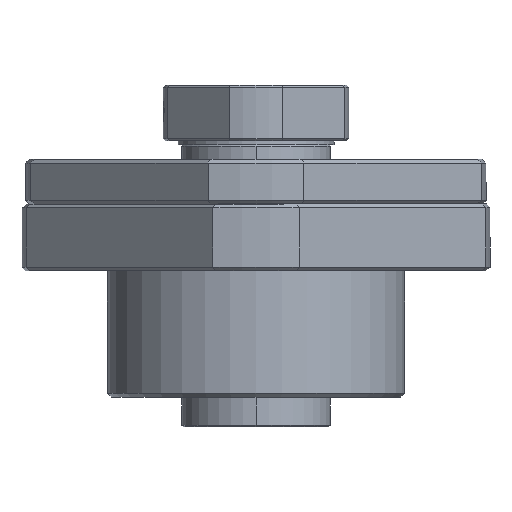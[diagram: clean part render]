
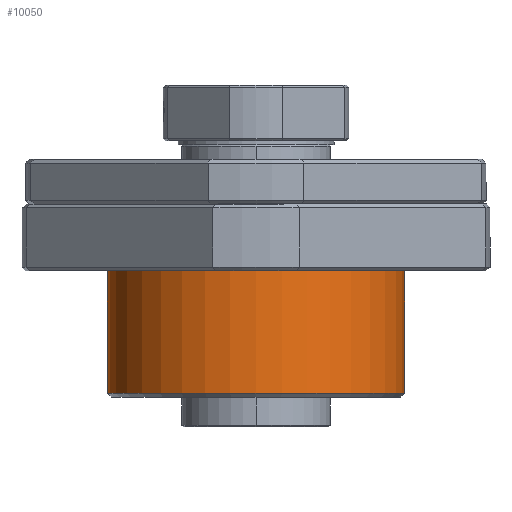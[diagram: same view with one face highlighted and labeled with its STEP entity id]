
A CAD part, left-side view. The second image highlights one B-rep face of the part: STEP entity #10050.
In plain terms, the highlighted cylindrical face has radius 20 mm (diameter 40 mm), a partial arc.
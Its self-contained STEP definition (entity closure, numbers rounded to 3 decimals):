
#131 = EDGE_CURVE ( 'NONE', #9633, #9437, #10567, .T. ) ;
#532 = EDGE_CURVE ( 'NONE', #3208, #3180, #4765, .T. ) ;
#540 = EDGE_CURVE ( 'NONE', #9437, #3208, #2165, .T. ) ;
#541 = EDGE_CURVE ( 'NONE', #9633, #3180, #2168, .T. ) ;
#2140 = CARTESIAN_POINT ( 'NONE',  ( 0., 0., -12.5 ) ) ;
#2141 = DIRECTION ( 'NONE',  ( 0., 0., 1. ) ) ;
#2142 = DIRECTION ( 'NONE',  ( 0., 1., 0. ) ) ;
#2165 = LINE ( 'NONE', #2166, #7730 ) ;
#2166 = CARTESIAN_POINT ( 'NONE',  ( 0., 20., -13. ) ) ;
#2167 = DIRECTION ( 'NONE',  ( 0., 0., -1. ) ) ;
#2168 = LINE ( 'NONE', #2169, #7737 ) ;
#2169 = CARTESIAN_POINT ( 'NONE',  ( 0., -20., -13. ) ) ;
#2170 = DIRECTION ( 'NONE',  ( 0., 0., -1. ) ) ;
#3180 = VERTEX_POINT ( 'NONE', #8346 ) ;
#3208 = VERTEX_POINT ( 'NONE', #8374 ) ;
#4765 = CIRCLE ( 'NONE', #7328, 20. ) ;
#5969 = CARTESIAN_POINT ( 'NONE',  ( 0., 0., 4. ) ) ;
#5970 = DIRECTION ( 'NONE',  ( 0., 0., -1. ) ) ;
#5971 = DIRECTION ( 'NONE',  ( 0., -1., 0. ) ) ;
#6641 = CYLINDRICAL_SURFACE ( 'NONE', #6642, 20. ) ;
#6642 = AXIS2_PLACEMENT_3D ( 'NONE', #9175, #9176, #9177 ) ;
#6645 = FACE_OUTER_BOUND ( 'NONE', #11553, .T. ) ;
#7328 = AXIS2_PLACEMENT_3D ( 'NONE', #2140, #2141, #2142 ) ;
#7547 = AXIS2_PLACEMENT_3D ( 'NONE', #5969, #5970, #5971 ) ;
#7730 = VECTOR ( 'NONE', #2167, 1000. ) ;
#7737 = VECTOR ( 'NONE', #2170, 1000. ) ;
#8346 = CARTESIAN_POINT ( 'NONE',  ( 0., -20., -12.5 ) ) ;
#8374 = CARTESIAN_POINT ( 'NONE',  ( 0., 20., -12.5 ) ) ;
#8502 = CARTESIAN_POINT ( 'NONE',  ( 0., 20., 4. ) ) ;
#8509 = CARTESIAN_POINT ( 'NONE',  ( 0., -20., 4. ) ) ;
#9175 = CARTESIAN_POINT ( 'NONE',  ( 0., 0., -13. ) ) ;
#9176 = DIRECTION ( 'NONE',  ( 0., 0., -1. ) ) ;
#9177 = DIRECTION ( 'NONE',  ( 0., -1., 0. ) ) ;
#9437 = VERTEX_POINT ( 'NONE', #8502 ) ;
#9633 = VERTEX_POINT ( 'NONE', #8509 ) ;
#10050 = ADVANCED_FACE ( 'NONE', ( #6645 ), #6641, .T. ) ;
#10567 = CIRCLE ( 'NONE', #7547, 20. ) ;
#11532 = ORIENTED_EDGE ( 'NONE', *, *, #532, .T. ) ;
#11553 = EDGE_LOOP ( 'NONE', ( #11682, #11591, #11532, #11573 ) ) ;
#11573 = ORIENTED_EDGE ( 'NONE', *, *, #541, .F. ) ;
#11591 = ORIENTED_EDGE ( 'NONE', *, *, #540, .T. ) ;
#11682 = ORIENTED_EDGE ( 'NONE', *, *, #131, .T. ) ;
